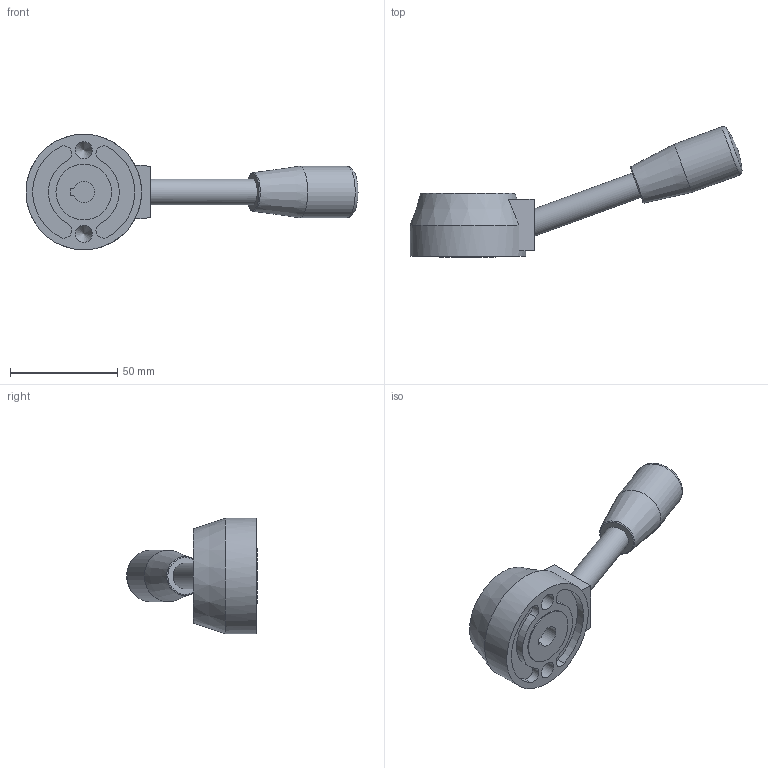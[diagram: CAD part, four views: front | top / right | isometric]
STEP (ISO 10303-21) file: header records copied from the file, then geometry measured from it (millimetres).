
FILE_DESCRIPTION( ( 'STEP AP203' ), '1' );
FILE_NAME( 'C:/Temp/Ganter_Step_05_03_2020/data/2_1/gn_512/gn_512_k/Control lever GN 512-54-K10.stp', '2020-03-05T11:51:40', ( 'License CC BY-ND 4.0' ), ( 'CADENAS' ), ' ', 'PARTsolutions', ' ' );
FILE_SCHEMA( ( 'CONFIG_CONTROL_DESIGN' ) );
Length unit declared in the file: millimetre
Products named in the file (1): _Control lever GN 512-54-K10
Bounding box: 155.09 x 61.04 x 54 mm (x, y, z)
Volume: 83471.3 mm3; surface area: 18091 mm2
Topology: 1 solids, 1 shells, 39 faces, 89 edges, 58 vertices
Faces by surface type: plane 16, cylinder 16, cone 4, torus 2, sphere 1
Full cylindrical faces by diameter (mm): 8 x2, 12 x1, 24 x1, 26 x1, 31 x1, 54 x1
Entity records: 1034 total; most frequent: DIRECTION 184, CARTESIAN_POINT 168, ORIENTED_EDGE 136, AXIS2_PLACEMENT_3D 78, EDGE_CURVE 68, EDGE_LOOP 59, VERTEX_POINT 54, FACE_OUTER_BOUND 48
